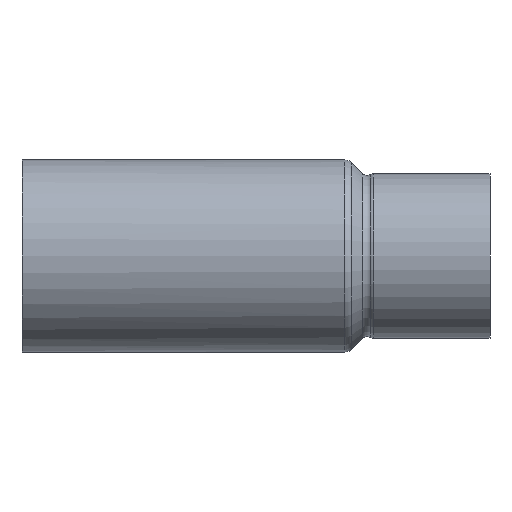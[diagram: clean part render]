
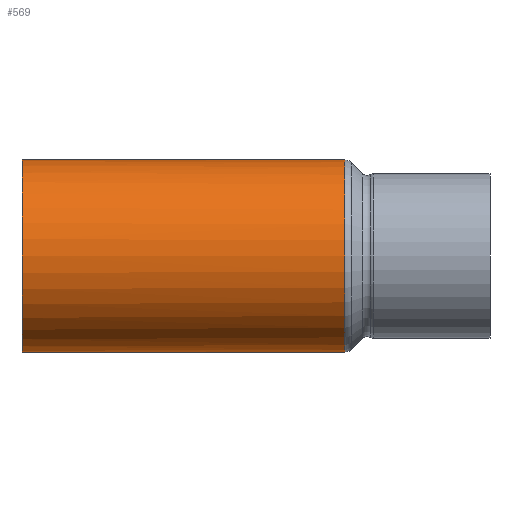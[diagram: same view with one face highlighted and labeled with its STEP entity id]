
A CAD part, front view. The second image highlights one B-rep face of the part: STEP entity #569.
In plain terms, the highlighted cylindrical face has radius 10.075 mm (diameter 20.15 mm), a full revolution.
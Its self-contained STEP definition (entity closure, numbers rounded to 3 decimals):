
#26=LINE('',#1519,#37);
#37=VECTOR('',#785,10.075);
#54=CYLINDRICAL_SURFACE('',#655,10.075);
#73=B_SPLINE_CURVE_WITH_KNOTS('',3,(#1332,#1333,#1334,#1335,#1336,#1337,
#1338,#1339,#1340,#1341,#1342,#1343,#1344,#1345,#1346,#1347,#1348,#1349,
#1350,#1351,#1352,#1353,#1354,#1355,#1356),.UNSPECIFIED.,.F.,.F.,(4,1,1,
1,1,1,1,1,1,1,1,1,1,1,1,1,1,1,1,1,1,1,4),(-4.762,-4.655,
-4.297,-4.118,-3.939,-3.849,
-3.76,-3.715,-3.67,-3.581,
-3.402,-3.223,-2.506,-2.148,
-1.969,-1.79,-1.432,-1.074,
-0.537,-0.269,-0.134,-0.067,
0.),.UNSPECIFIED.);
#84=B_SPLINE_CURVE_WITH_KNOTS('',3,(#1469,#1470,#1471,#1472,#1473,#1474,
#1475,#1476,#1477,#1478,#1479,#1480,#1481,#1482,#1483,#1484),
 .UNSPECIFIED.,.F.,.F.,(4,3,3,3,3,4),(-7.519,-7.452,
-7.385,-7.251,-6.982,-6.516),
 .UNSPECIFIED.);
#114=FACE_OUTER_BOUND('',#149,.T.);
#149=EDGE_LOOP('',(#457,#458,#459,#460,#461,#462,#463));
#186=CIRCLE('',#630,10.075);
#187=CIRCLE('',#631,10.075);
#204=CIRCLE('',#656,10.075);
#235=VERTEX_POINT('',#1091);
#238=VERTEX_POINT('',#1131);
#240=VERTEX_POINT('',#1149);
#241=VERTEX_POINT('',#1331);
#263=VERTEX_POINT('',#1518);
#303=EDGE_CURVE('',#235,#240,#186,.T.);
#304=EDGE_CURVE('',#240,#238,#187,.T.);
#307=EDGE_CURVE('',#238,#241,#73,.T.);
#319=EDGE_CURVE('',#241,#235,#84,.T.);
#336=EDGE_CURVE('',#240,#263,#26,.T.);
#337=EDGE_CURVE('',#263,#263,#204,.T.);
#457=ORIENTED_EDGE('',*,*,#303,.F.);
#458=ORIENTED_EDGE('',*,*,#319,.F.);
#459=ORIENTED_EDGE('',*,*,#307,.F.);
#460=ORIENTED_EDGE('',*,*,#304,.F.);
#461=ORIENTED_EDGE('',*,*,#336,.T.);
#462=ORIENTED_EDGE('',*,*,#337,.T.);
#463=ORIENTED_EDGE('',*,*,#336,.F.);
#569=ADVANCED_FACE('',(#114),#54,.T.);
#630=AXIS2_PLACEMENT_3D('',#1150,#730,#731);
#631=AXIS2_PLACEMENT_3D('',#1151,#732,#733);
#655=AXIS2_PLACEMENT_3D('',#1517,#783,#784);
#656=AXIS2_PLACEMENT_3D('',#1520,#786,#787);
#730=DIRECTION('center_axis',(1.,0.,0.));
#731=DIRECTION('ref_axis',(0.,-1.,0.));
#732=DIRECTION('center_axis',(1.,0.,0.));
#733=DIRECTION('ref_axis',(0.,-1.,0.));
#783=DIRECTION('center_axis',(1.,0.,0.));
#784=DIRECTION('ref_axis',(0.,1.,0.));
#785=DIRECTION('',(-1.,0.,0.));
#786=DIRECTION('center_axis',(1.,0.,0.));
#787=DIRECTION('ref_axis',(0.,1.,0.));
#1091=CARTESIAN_POINT('',(9.785,7.081,7.166));
#1131=CARTESIAN_POINT('',(9.784,7.08,-7.168));
#1149=CARTESIAN_POINT('',(9.786,-10.075,0.));
#1150=CARTESIAN_POINT('Origin',(9.786,0.,0.));
#1151=CARTESIAN_POINT('Origin',(9.786,0.,0.));
#1331=CARTESIAN_POINT('',(0.,1.039,10.021));
#1332=CARTESIAN_POINT('Ctrl Pts',(9.784,7.08,-7.168));
#1333=CARTESIAN_POINT('Ctrl Pts',(9.495,6.875,-7.37));
#1334=CARTESIAN_POINT('Ctrl Pts',(8.205,5.963,-8.194));
#1335=CARTESIAN_POINT('Ctrl Pts',(6.25,4.586,-9.042));
#1336=CARTESIAN_POINT('Ctrl Pts',(3.964,3.013,-9.641));
#1337=CARTESIAN_POINT('Ctrl Pts',(2.465,2.027,-9.882));
#1338=CARTESIAN_POINT('Ctrl Pts',(1.189,1.305,-9.994));
#1339=CARTESIAN_POINT('Ctrl Pts',(0.23,0.975,-10.028));
#1340=CARTESIAN_POINT('Ctrl Pts',(-0.604,1.102,-10.015));
#1341=CARTESIAN_POINT('Ctrl Pts',(-1.322,1.385,-9.982));
#1342=CARTESIAN_POINT('Ctrl Pts',(-2.457,2.018,-9.884));
#1343=CARTESIAN_POINT('Ctrl Pts',(-3.952,3.006,-9.644));
#1344=CARTESIAN_POINT('Ctrl Pts',(-7.397,5.376,-8.735));
#1345=CARTESIAN_POINT('Ctrl Pts',(-11.104,8.018,-6.705));
#1346=CARTESIAN_POINT('Ctrl Pts',(-13.45,9.682,-3.192));
#1347=CARTESIAN_POINT('Ctrl Pts',(-14.016,10.087,-0.886));
#1348=CARTESIAN_POINT('Ctrl Pts',(-14.023,10.091,1.492));
#1349=CARTESIAN_POINT('Ctrl Pts',(-12.918,9.304,4.314));
#1350=CARTESIAN_POINT('Ctrl Pts',(-10.026,7.249,7.315));
#1351=CARTESIAN_POINT('Ctrl Pts',(-6.546,4.788,9.025));
#1352=CARTESIAN_POINT('Ctrl Pts',(-3.524,2.707,9.737));
#1353=CARTESIAN_POINT('Ctrl Pts',(-1.91,1.694,9.938));
#1354=CARTESIAN_POINT('Ctrl Pts',(-0.903,1.192,10.006));
#1355=CARTESIAN_POINT('Ctrl Pts',(-0.308,1.039,10.021));
#1356=CARTESIAN_POINT('Ctrl Pts',(0.,1.039,
10.021));
#1469=CARTESIAN_POINT('Ctrl Pts',(0.,1.039,
10.021));
#1470=CARTESIAN_POINT('Ctrl Pts',(0.308,1.039,10.021));
#1471=CARTESIAN_POINT('Ctrl Pts',(0.604,1.114,10.014));
#1472=CARTESIAN_POINT('Ctrl Pts',(0.878,1.215,10.001));
#1473=CARTESIAN_POINT('Ctrl Pts',(1.153,1.316,9.989));
#1474=CARTESIAN_POINT('Ctrl Pts',(1.407,1.443,9.972));
#1475=CARTESIAN_POINT('Ctrl Pts',(1.653,1.576,9.951));
#1476=CARTESIAN_POINT('Ctrl Pts',(2.144,1.841,9.909));
#1477=CARTESIAN_POINT('Ctrl Pts',(2.605,2.13,9.852));
#1478=CARTESIAN_POINT('Ctrl Pts',(3.056,2.422,9.78));
#1479=CARTESIAN_POINT('Ctrl Pts',(3.958,3.006,9.635));
#1480=CARTESIAN_POINT('Ctrl Pts',(4.823,3.601,9.431));
#1481=CARTESIAN_POINT('Ctrl Pts',(5.667,4.188,9.164));
#1482=CARTESIAN_POINT('Ctrl Pts',(7.132,5.205,8.699));
#1483=CARTESIAN_POINT('Ctrl Pts',(8.534,6.195,8.042));
#1484=CARTESIAN_POINT('Ctrl Pts',(9.785,7.08,7.166));
#1517=CARTESIAN_POINT('Origin',(0.5,0.,0.));
#1518=CARTESIAN_POINT('',(-24.,-10.075,0.));
#1519=CARTESIAN_POINT('',(0.5,-10.075,0.));
#1520=CARTESIAN_POINT('Origin',(-24.,0.,0.));
